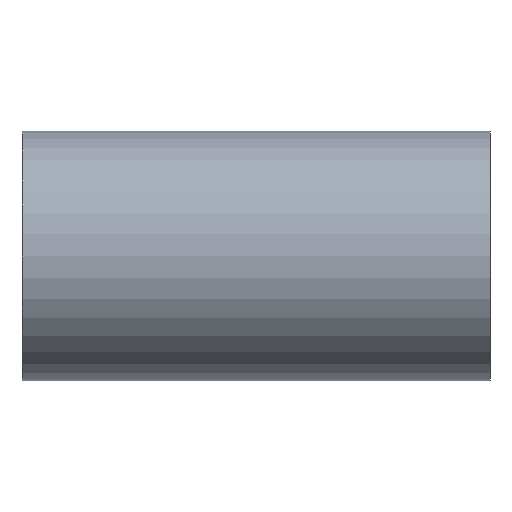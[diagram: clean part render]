
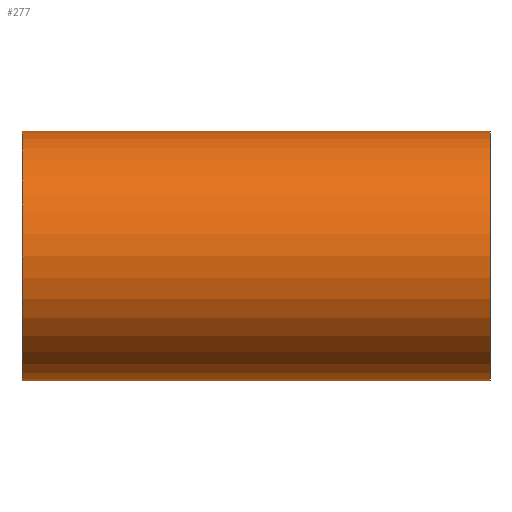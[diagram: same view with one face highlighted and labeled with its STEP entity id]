
A CAD part, front view. The second image highlights one B-rep face of the part: STEP entity #277.
In plain terms, the highlighted cylindrical face has radius 76.2 mm (diameter 152.4 mm), a partial arc.
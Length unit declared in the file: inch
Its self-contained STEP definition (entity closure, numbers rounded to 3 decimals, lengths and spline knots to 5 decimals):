
#12 = CARTESIAN_POINT ( 'NONE',  ( 5.625, 0., -3. ) ) ;
#15 = ORIENTED_EDGE ( 'NONE', *, *, #251, .F. ) ;
#16 = DIRECTION ( 'NONE',  ( -1., 0., 0. ) ) ;
#23 = CARTESIAN_POINT ( 'NONE',  ( 5.625, 0., -3. ) ) ;
#27 = VERTEX_POINT ( 'NONE', #135 ) ;
#42 = EDGE_LOOP ( 'NONE', ( #416, #382, #424, #419, #444, #15 ) ) ;
#52 = VECTOR ( 'NONE', #359, 39.37008 ) ;
#60 = DIRECTION ( 'NONE',  ( -1., 0., 0. ) ) ;
#88 = CARTESIAN_POINT ( 'NONE',  ( 5.625, 0., 3. ) ) ;
#93 = VECTOR ( 'NONE', #16, 39.37008 ) ;
#107 = VECTOR ( 'NONE', #60, 39.37008 ) ;
#118 = VERTEX_POINT ( 'NONE', #387 ) ;
#121 = DIRECTION ( 'NONE',  ( -1., 0., 0. ) ) ;
#135 = CARTESIAN_POINT ( 'NONE',  ( -5.625, 0., 3. ) ) ;
#160 = CIRCLE ( 'NONE', #410, 3. ) ;
#162 = LINE ( 'NONE', #180, #107 ) ;
#179 = CYLINDRICAL_SURFACE ( 'NONE', #418, 3. ) ;
#180 = CARTESIAN_POINT ( 'NONE',  ( 5.625, 0., 3. ) ) ;
#186 = LINE ( 'NONE', #12, #93 ) ;
#187 = CARTESIAN_POINT ( 'NONE',  ( 0., 0., 3. ) ) ;
#192 = CARTESIAN_POINT ( 'NONE',  ( 5.625, 0., 0. ) ) ;
#229 = DIRECTION ( 'NONE',  ( 0., 0., 1. ) ) ;
#240 = EDGE_CURVE ( 'NONE', #294, #318, #186, .T. ) ;
#244 = EDGE_CURVE ( 'NONE', #278, #259, #162, .T. ) ;
#245 = FACE_OUTER_BOUND ( 'NONE', #42, .T. ) ;
#248 = EDGE_CURVE ( 'NONE', #259, #27, #357, .T. ) ;
#251 = EDGE_CURVE ( 'NONE', #318, #118, #331, .T. ) ;
#252 = EDGE_CURVE ( 'NONE', #278, #294, #383, .T. ) ;
#259 = VERTEX_POINT ( 'NONE', #187 ) ;
#269 = AXIS2_PLACEMENT_3D ( 'NONE', #332, #328, #326 ) ;
#277 = ADVANCED_FACE ( 'NONE', ( #245 ), #179, .T. ) ;
#278 = VERTEX_POINT ( 'NONE', #88 ) ;
#283 = EDGE_CURVE ( 'NONE', #27, #118, #160, .T. ) ;
#294 = VERTEX_POINT ( 'NONE', #23 ) ;
#318 = VERTEX_POINT ( 'NONE', #373 ) ;
#322 = VECTOR ( 'NONE', #427, 39.37008 ) ;
#326 = DIRECTION ( 'NONE',  ( 0., 0., -1. ) ) ;
#328 = DIRECTION ( 'NONE',  ( 1., 0., 0. ) ) ;
#331 = LINE ( 'NONE', #368, #52 ) ;
#332 = CARTESIAN_POINT ( 'NONE',  ( 5.625, 0., 0. ) ) ;
#357 = LINE ( 'NONE', #437, #322 ) ;
#359 = DIRECTION ( 'NONE',  ( -1., 0., 0. ) ) ;
#368 = CARTESIAN_POINT ( 'NONE',  ( 5.625, 0., -3. ) ) ;
#373 = CARTESIAN_POINT ( 'NONE',  ( 0., 0., -3. ) ) ;
#382 = ORIENTED_EDGE ( 'NONE', *, *, #252, .F. ) ;
#383 = CIRCLE ( 'NONE', #269, 3. ) ;
#387 = CARTESIAN_POINT ( 'NONE',  ( -5.625, 0., -3. ) ) ;
#398 = DIRECTION ( 'NONE',  ( 0., 0., -1. ) ) ;
#403 = CARTESIAN_POINT ( 'NONE',  ( -5.625, 0., 0. ) ) ;
#410 = AXIS2_PLACEMENT_3D ( 'NONE', #403, #438, #398 ) ;
#416 = ORIENTED_EDGE ( 'NONE', *, *, #240, .F. ) ;
#418 = AXIS2_PLACEMENT_3D ( 'NONE', #192, #121, #229 ) ;
#419 = ORIENTED_EDGE ( 'NONE', *, *, #248, .T. ) ;
#424 = ORIENTED_EDGE ( 'NONE', *, *, #244, .T. ) ;
#427 = DIRECTION ( 'NONE',  ( -1., 0., 0. ) ) ;
#437 = CARTESIAN_POINT ( 'NONE',  ( 5.625, 0., 3. ) ) ;
#438 = DIRECTION ( 'NONE',  ( 1., 0., 0. ) ) ;
#444 = ORIENTED_EDGE ( 'NONE', *, *, #283, .T. ) ;
